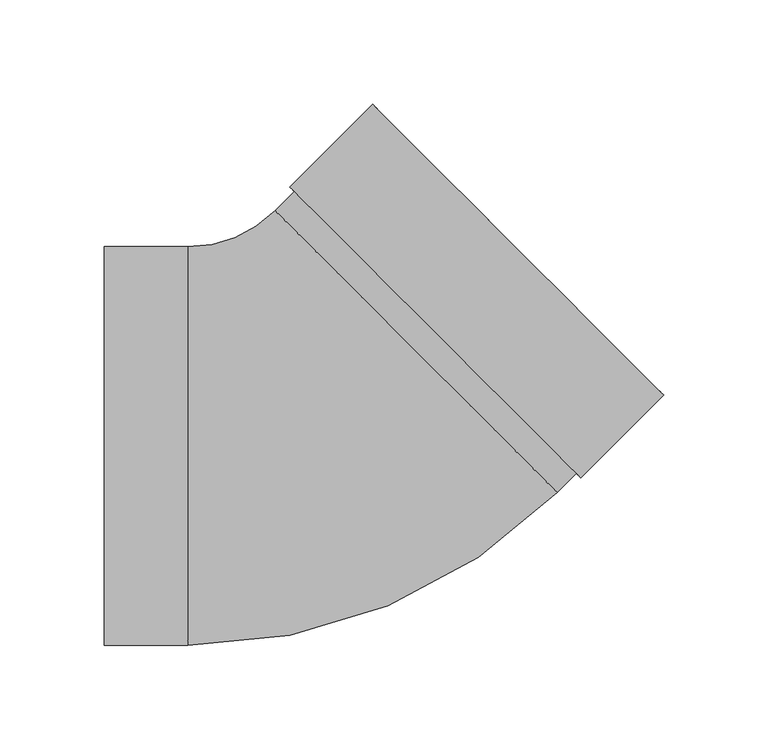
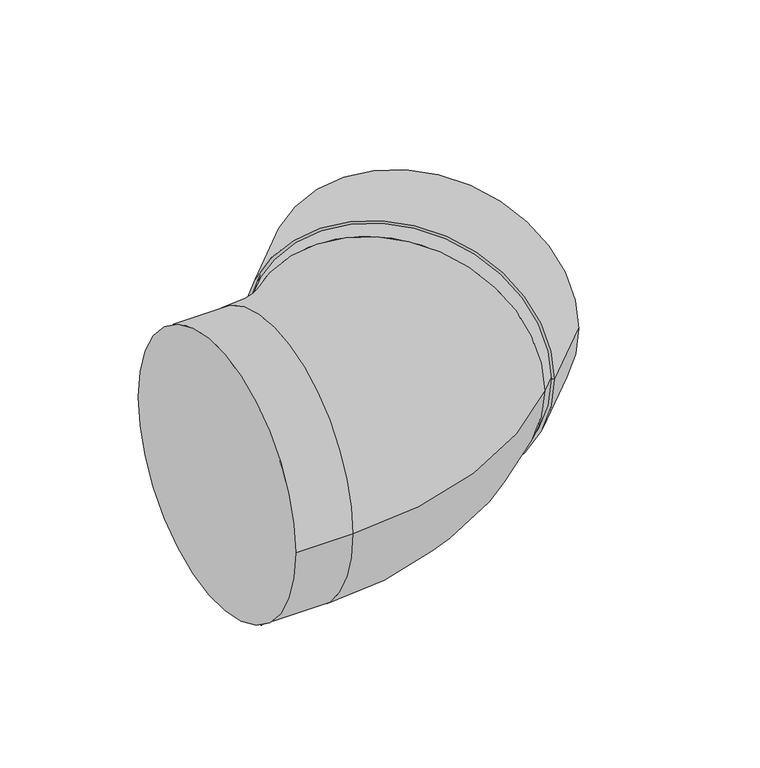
"""IFC4 building model written with IfcOpenShell, lengths in millimetres: duct fitting geometry, NLRS_57_DUF_UN_bend EPS_M&G : ø125 - ø200."""

from ifc_helpers import new_model, si_unit, point, frame, origin, place, context, project, spatial, polyline, circle_curve, ellipse_curve, trimmed, source, transform, mapped, element, save
from ifc_brep_helpers import plane_surface, cylinder_surface, revolved_surface, advanced_brep


def duct_fitting_336fe6db(model_context):
    return source(origin(), model_context, "Body", "AdvancedBrep", [
        advanced_brep(
        [(124.0972401, -15.2027958, 0.0), (-15.2027958, 124.0972401, 0.0), (24.395184, 163.6952198, 0.0), (163.6952198, 24.395184, 0.0), (122.6830265, -13.7885822, 0.0), (-13.7885822, 122.6830265, 0.0), (141.7749096, 5.3033009, 0.0), (5.3033009, 141.7749096, 0.0), (140.3606961, 6.7175144, 0.0), (6.7175144, 140.3606961, 0.0), (143.1891232, 6.7175144, 0.0), (6.7175144, 143.1891232, 0.0), (8.131728, 141.7749096, 0.0), (141.7749096, 8.131728, 0.0), (162.2810063, 25.8093975, 0.0), (25.8093975, 162.2810063, 0.0)],
        [
            (0, 1, circle_curve(frame((54.4472222, 54.4472222, 0.0), z_axis=(0.7071067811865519, 0.7071067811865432, 0.0), x_axis=(-0.7071067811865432, 0.7071067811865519, 0.0)), 98.5)),
            (1, 2),
            (2, 3, circle_curve(frame((94.0452019, 94.0452019, 0.0), z_axis=(-0.7071067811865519, -0.7071067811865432, 0.0), x_axis=(-0.7071067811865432, 0.7071067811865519, 0.0)), 98.5)),
            (3, 0),
            (1, 0, circle_curve(frame((54.4472222, 54.4472222, 0.0), z_axis=(0.7071067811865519, 0.7071067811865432, 0.0), x_axis=(-0.7071067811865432, 0.7071067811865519, 0.0)), 98.5)),
            (3, 2, circle_curve(frame((94.0452019, 94.0452019, 0.0), z_axis=(-0.7071067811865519, -0.7071067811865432, 0.0), x_axis=(-0.7071067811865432, 0.7071067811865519, 0.0)), 98.5)),
            (4, 5, circle_curve(frame((54.4472222, 54.4472222, 0.0), z_axis=(0.7071067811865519, 0.7071067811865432, 0.0), x_axis=(-0.7071067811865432, 0.7071067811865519, 0.0)), 96.5)),
            (5, 1),
            (0, 4),
            (5, 4, circle_curve(frame((54.4472222, 54.4472222, 0.0), z_axis=(0.7071067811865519, 0.7071067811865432, 0.0), x_axis=(-0.7071067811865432, 0.7071067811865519, 0.0)), 96.5)),
            (6, 7, circle_curve(frame((73.5391052, 73.5391052, 0.0), z_axis=(0.7071067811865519, 0.7071067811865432, 0.0), x_axis=(-0.7071067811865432, 0.7071067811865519, 0.0)), 96.5)),
            (7, 5),
            (4, 6),
            (7, 6, circle_curve(frame((73.5391052, 73.5391052, 0.0), z_axis=(0.7071067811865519, 0.7071067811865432, 0.0), x_axis=(-0.7071067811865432, 0.7071067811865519, 0.0)), 96.5)),
            (8, 9, circle_curve(frame((73.5391052, 73.5391052, 0.0), z_axis=(0.7071067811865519, 0.7071067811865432, 0.0), x_axis=(-0.7071067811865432, 0.7071067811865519, 0.0)), 94.5)),
            (9, 7),
            (6, 8),
            (9, 8, circle_curve(frame((73.5391052, 73.5391052, 0.0), z_axis=(0.7071067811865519, 0.7071067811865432, 0.0), x_axis=(-0.7071067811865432, 0.7071067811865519, 0.0)), 94.5)),
            (10, 11, circle_curve(frame((74.9533188, 74.9533188, 0.0), z_axis=(0.7071067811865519, 0.7071067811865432, 0.0), x_axis=(-0.7071067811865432, 0.7071067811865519, 0.0)), 96.5)),
            (11, 12),
            (12, 13, circle_curve(frame((74.9533188, 74.9533188, 0.0), z_axis=(-0.7071067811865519, -0.7071067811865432, 0.0), x_axis=(-0.7071067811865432, 0.7071067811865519, 0.0)), 94.5)),
            (13, 10),
            (11, 10, circle_curve(frame((74.9533188, 74.9533188, 0.0), z_axis=(0.7071067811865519, 0.7071067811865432, 0.0), x_axis=(-0.7071067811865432, 0.7071067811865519, 0.0)), 96.5)),
            (13, 12, circle_curve(frame((74.9533188, 74.9533188, 0.0), z_axis=(-0.7071067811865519, -0.7071067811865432, 0.0), x_axis=(-0.7071067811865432, 0.7071067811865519, 0.0)), 94.5)),
            (14, 15, circle_curve(frame((94.0452019, 94.0452019, 0.0), z_axis=(0.7071067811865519, 0.7071067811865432, 0.0), x_axis=(-0.7071067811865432, 0.7071067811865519, 0.0)), 96.5)),
            (15, 11),
            (10, 14),
            (15, 14, circle_curve(frame((94.0452019, 94.0452019, 0.0), z_axis=(0.7071067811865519, 0.7071067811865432, 0.0), x_axis=(-0.7071067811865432, 0.7071067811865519, 0.0)), 96.5)),
            (2, 15),
            (14, 3),
            (12, 9),
            (8, 13),
        ],
        [
            cylinder_surface(frame((1471.1356583, 1471.1356583, 0.0), z_axis=(-0.7071067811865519, -0.7071067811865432, 0.0), x_axis=(-0.7071067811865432, 0.7071067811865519, 0.0)), 98.5),
            plane_surface(frame((54.4472222, 54.4472222, 0.0), z_axis=(-0.7071067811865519, -0.7071067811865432, 0.0), x_axis=(-0.7071067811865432, 0.7071067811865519, 0.0))),
            revolved_surface(polyline([(-13.788582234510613, 122.68302653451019, 0.0), (5.303300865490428, 141.774909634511, 0.0)]), (1471.1356583, 1471.1356583, 0.0), (-0.7071067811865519, -0.7071067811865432, 0.0)),
            plane_surface(frame((73.5391052, 73.5391052, 0.0), z_axis=(-0.7071067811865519, -0.7071067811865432, 0.0), x_axis=(-0.7071067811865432, 0.7071067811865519, 0.0))),
            plane_surface(frame((74.9533188, 74.9533188, 0.0), z_axis=(0.7071067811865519, 0.7071067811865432, 0.0), x_axis=(-0.7071067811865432, 0.7071067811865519, 0.0))),
            revolved_surface(polyline([(6.717514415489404, 143.18912318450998, 0.0), (25.809397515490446, 162.2810062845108, 0.0)]), (1471.1356583, 1471.1356583, 0.0), (-0.7071067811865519, -0.7071067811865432, 0.0)),
            plane_surface(frame((94.0452019, 94.0452019, 0.0), z_axis=(0.7071067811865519, 0.7071067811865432, 0.0), x_axis=(-0.7071067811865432, 0.7071067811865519, 0.0))),
            revolved_surface(polyline([(6.717514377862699, 140.36069602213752, 0.0), (8.131727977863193, 141.774909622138, 0.0)]), (1471.1356583, 1471.1356583, 0.0), (-0.7071067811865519, -0.7071067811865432, 0.0)),
        ],
        [
            (0, [[1, 2, 3, 4]]),
            (0, [[5, -4, 6, -2]]),
            (1, [[7, 8, -1, 9]]),
            (1, [[10, -9, -5, -8]]),
            (2, [[11, 12, -7, 13]]),
            (2, [[14, -13, -10, -12]]),
            (3, [[15, 16, -11, 17]]),
            (3, [[18, -17, -14, -16]]),
            (4, [[19, 20, 21, 22]]),
            (4, [[23, -22, 24, -20]]),
            (5, [[25, 26, -19, 27]]),
            (5, [[28, -27, -23, -26]]),
            (6, [[-3, 29, -25, 30]]),
            (6, [[-6, -30, -28, -29]]),
            (7, [[-21, 31, -15, 32]]),
            (7, [[-24, -32, -18, -31]]),
        ],
    ),
        advanced_brep(
        [(-104.0, -95.5, 0.0), (-104.0, 95.5, 0.0), (-64.0, -95.5, 0.0), (-64.0, 95.5, 0.0), (-22.2738636, 112.7835316, 0.0), (112.7835316, -22.2738636, 0.0), (141.0678028, 6.0104076, 0.0), (6.0104076, 141.0678028, 0.0)],
        [
            (0, 1, circle_curve(frame((-104.0, 0.0, 0.0), z_axis=(-1.0, 0.0, 0.0), x_axis=(0.0, 1.0, 0.0)), 95.5)),
            (1, 0, circle_curve(frame((-104.0, 0.0, 0.0), z_axis=(-1.0, 0.0, 0.0), x_axis=(0.0, 1.0, 0.0)), 95.5)),
            (0, 2),
            (2, 3, circle_curve(frame((-64.0, 0.0, 0.0), z_axis=(-1.0, 0.0, 0.0), x_axis=(0.0, 1.0, 0.0)), 95.5)),
            (3, 1),
            (3, 2, circle_curve(frame((-64.0, 0.0, 0.0), z_axis=(-1.0, 0.0, 0.0), x_axis=(0.0, 1.0, 0.0)), 95.5)),
            (4, 3, circle_curve(frame((-64.0, 154.509668, 0.0), z_axis=(0.0, 0.0, -1.0), x_axis=(0.0, -1.0, 0.0)), 59.009668)),
            (2, 5, circle_curve(frame((-64.0, 154.509668, 0.0), z_axis=(0.0, 0.0, 1.0), x_axis=(0.0, -1.0, 0.0)), 250.009668)),
            (5, 4, circle_curve(frame((45.254834, 45.254834, 0.0), z_axis=(-0.7071067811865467, -0.7071067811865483, 0.0), x_axis=(-0.7071067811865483, 0.7071067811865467, 0.0)), 95.5)),
            (4, 5, circle_curve(frame((45.254834, 45.254834, 0.0), z_axis=(-0.707106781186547, -0.707106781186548, 0.0), x_axis=(-0.707106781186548, 0.707106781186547, 0.0)), 95.5)),
            (6, 7, circle_curve(frame((73.5391052, 73.5391052, 0.0), z_axis=(0.7071067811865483, 0.7071067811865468, 0.0), x_axis=(-0.7071067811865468, 0.7071067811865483, 0.0)), 95.5)),
            (7, 6, circle_curve(frame((73.5391052, 73.5391052, 0.0), z_axis=(0.7071067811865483, 0.7071067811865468, 0.0), x_axis=(-0.7071067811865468, 0.7071067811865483, 0.0)), 95.5)),
            (5, 6),
            (7, 4),
        ],
        [
            plane_surface(frame((-104.0, 0.0, 0.0), z_axis=(-1.0, 0.0, 0.0), x_axis=(0.0, 0.0, 1.0))),
            cylinder_surface(frame((-104.0, 0.0, 0.0), z_axis=(-1.0, 0.0, 0.0), x_axis=(0.0, 1.0, 0.0)), 95.5),
            revolved_surface(trimmed(ellipse_curve(frame((-64.0, 0.0, 0.0), z_axis=(-1.0, 0.0, 0.0), x_axis=(0.0, 1.0, 0.0)), 95.5, 95.5), [point((-64.0, -95.5, 0.0))], [point((-64.0, 95.5, 0.0))], True, "CARTESIAN"), (-64.0, 154.509668, 0.0), (0.0, 0.0, 1.0)),
            revolved_surface(trimmed(ellipse_curve(frame((-64.0, 0.0, 0.0), z_axis=(-1.0, 0.0, 0.0), x_axis=(0.0, 1.0, 0.0)), 95.5, 95.5), [point((-64.0, 95.5, 0.0))], [point((-64.0, -95.5, 0.0))], True, "CARTESIAN"), (-64.0, 154.509668, 0.0), (0.0, 0.0, 1.0)),
            plane_surface(frame((73.5391052, 73.5391052, 0.0), z_axis=(0.7071067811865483, 0.7071067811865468, 0.0), x_axis=(0.0, 0.0, 1.0))),
            cylinder_surface(frame((45.254834, 45.254834, 0.0), z_axis=(-0.7071067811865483, -0.7071067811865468, 0.0), x_axis=(-0.7071067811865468, 0.7071067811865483, 0.0)), 95.5),
        ],
        [
            (0, [[1, 2]]),
            (1, [[-1, 3, 4, 5]]),
            (1, [[-2, -5, 6, -3]]),
            (2, [[7, -4, 8, 9]]),
            (3, [[-8, -6, -7, 10]]),
            (4, [[11, 12]]),
            (5, [[-9, 13, -12, 14]]),
            (5, [[-10, -14, -11, -13]]),
        ],
    ),
    ])


if __name__ == "__main__":
    model = new_model("IFC4")
    model_context = context("Model", 3, world=origin())
    ifc_project = project(units=[si_unit("LENGTHUNIT", "METRE", prefix="MILLI")], contexts=[model_context])
    site = spatial("IfcSite", under=ifc_project)
    building = spatial("IfcBuilding", under=site)
    placement = place(None, origin())
    duct_fitting_shape = duct_fitting_336fe6db(model_context)
    element("IfcDuctFitting", 1, ObjectType="NLRS_57_DUF_UN_bend EPS_M&G : ø125 - ø200", at=placement, inside=building, context=model_context, shape_type="MappedRepresentation", body=[
        mapped(duct_fitting_shape, transform((0.0, 0.0, 0.0), x_axis=(1.0, 0.0, 0.0), y_axis=(0.0, 1.0, 0.0), z_axis=(0.0, 0.0, 1.0))),
    ])
    save(model, "model.ifc")
